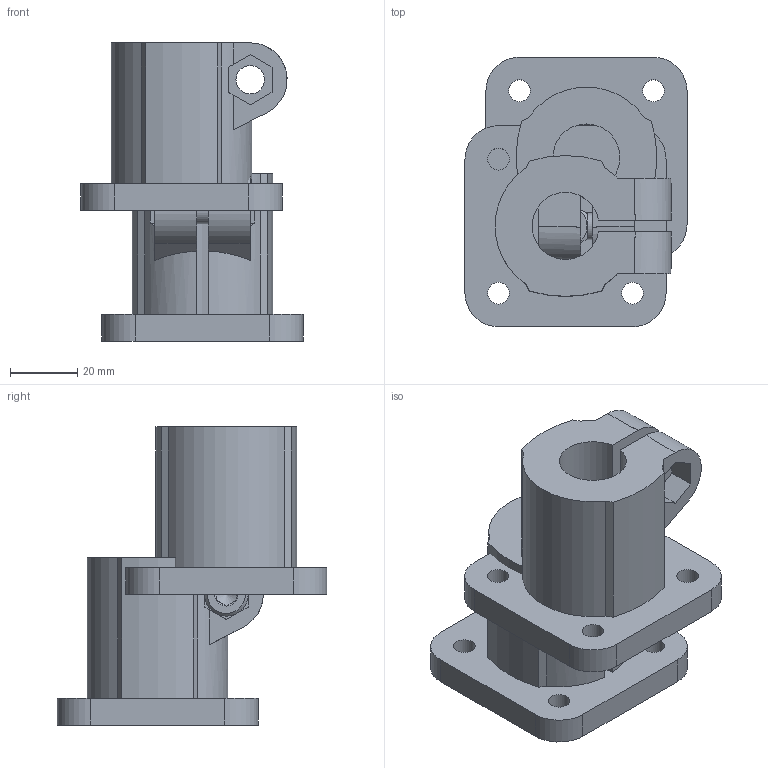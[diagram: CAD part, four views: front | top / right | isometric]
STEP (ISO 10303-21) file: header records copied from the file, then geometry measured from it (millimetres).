
FILE_DESCRIPTION( ( 'STEP AP214' ), '1' );
FILE_NAME( 'N:/Engineering/CAD_Solid/LVDT/Zubehör/Fußklemmstück 2030.stp', '2011-12-12T15:40:56', ( ' ' ), ( ' ' ), 'XStep 1.0', ' ', ' ' );
FILE_SCHEMA( ( 'CONFIG_CONTROL_DESIGN) ( )' ) );
Length unit declared in the file: metre
Products named in the file (4): Assem1; DIN912_M8x20; Mutter_DIN934_M8; Fu遦lemmst點k_D20
Bounding box: 66.25 x 80.5 x 89 mm (x, y, z)
Volume: 148495.7 mm3; surface area: 43629.7 mm2
Topology: 6 solids, 6 shells, 180 faces, 454 edges, 288 vertices
Faces by surface type: plane 108, cylinder 46, cone 26
Full cylindrical faces by diameter (mm): 6.5 x8, 6.647 x2, 8 x2, 8.5 x4, 13 x2, 20 x2
Entity records: 2853 total; most frequent: CARTESIAN_POINT 593, DIRECTION 436, ORIENTED_EDGE 410, EDGE_CURVE 205, AXIS2_PLACEMENT_3D 163, VERTEX_POINT 140, EDGE_LOOP 124, LINE 110
